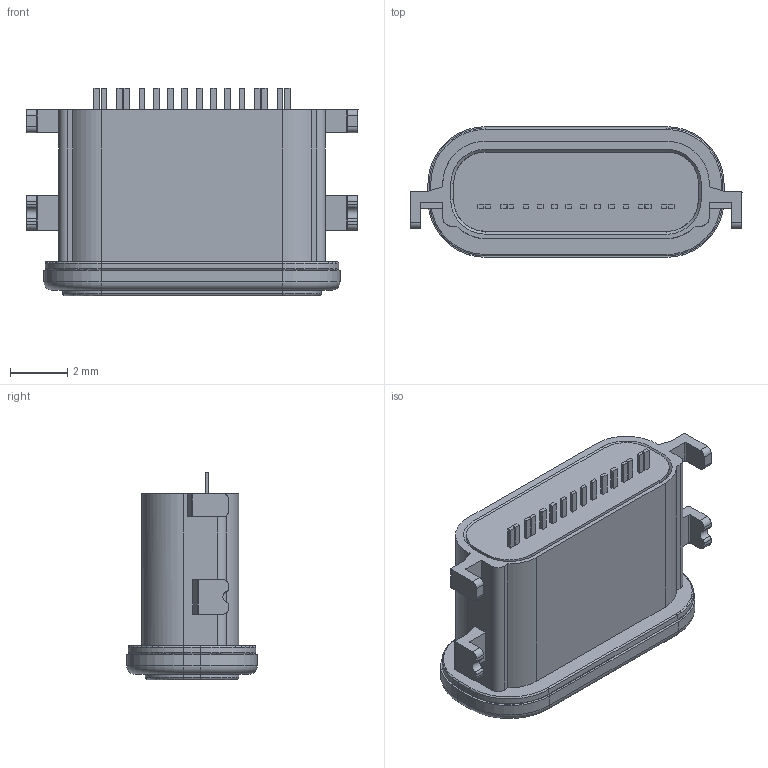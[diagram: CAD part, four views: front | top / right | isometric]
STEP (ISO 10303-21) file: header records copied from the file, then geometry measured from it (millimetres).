
FILE_DESCRIPTION (( 'STEP AP203' ), '1' );
FILE_NAME ('U5347-16PN1.0C6.5F.STEP', '2026-09-22T02:27:59', ( '' ), ( '' ), 'SwSTEP 2.0', 'SolidWorks 2024', '' );
FILE_SCHEMA (( 'CONFIG_CONTROL_DESIGN' ));
Length unit declared in the file: millimetre
Products named in the file (5): U5347-16PN1.0C6.5F; OO---0.8; 3Ｍ.1; U5347-16PN1.0C6.5F(2); 1.0-UB08-A52
Assembly tree (4 placements, depth 4):
  U5347-16PN1.0C6.5F
    U5347-16PN1.0C6.5F(2)
      1.0-UB08-A52
        3Ｍ.1
        OO---0.8
Bounding box: 11.59 x 4.56 x 7.26 mm (x, y, z)
Volume: 10.6 mm3; surface area: 550.1 mm2
Topology: 1 solids, 2 shells, 644 faces, 1790 edges, 1158 vertices
Faces by surface type: plane 435, cylinder 173, torus 28, cone 8
Entity records: 23266 total; most frequent: CARTESIAN_POINT 9623, ORIENTED_EDGE 3564, EDGE_CURVE 1790, B_SPLINE_CURVE_WITH_KNOTS 1690, DIRECTION 1436, VERTEX_POINT 1158, AXIS2_PLACEMENT_3D 682, EDGE_LOOP 678
